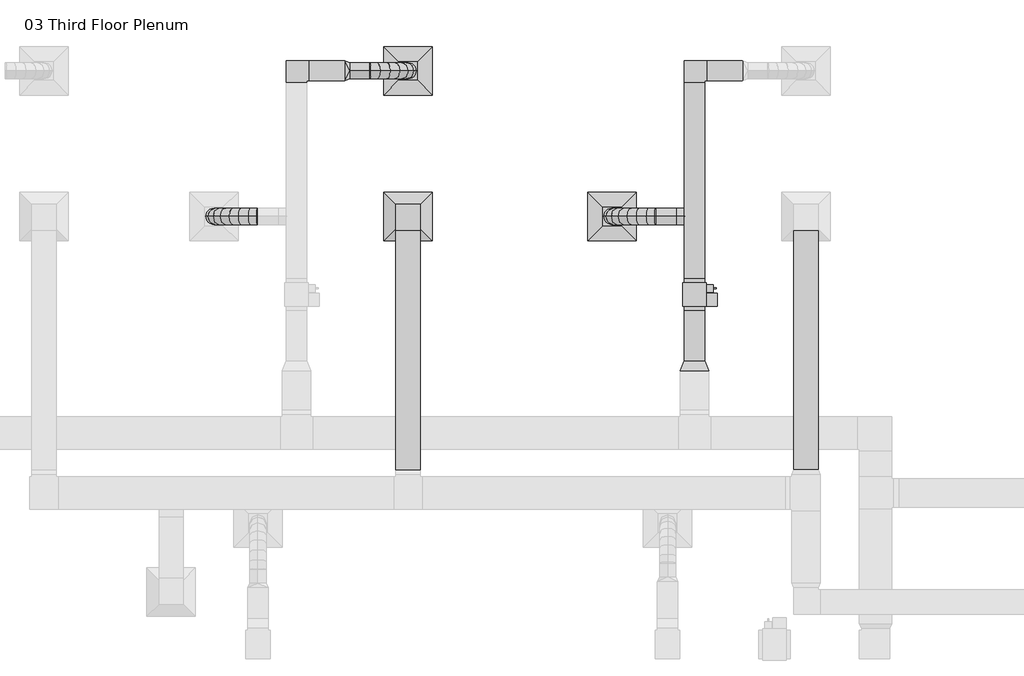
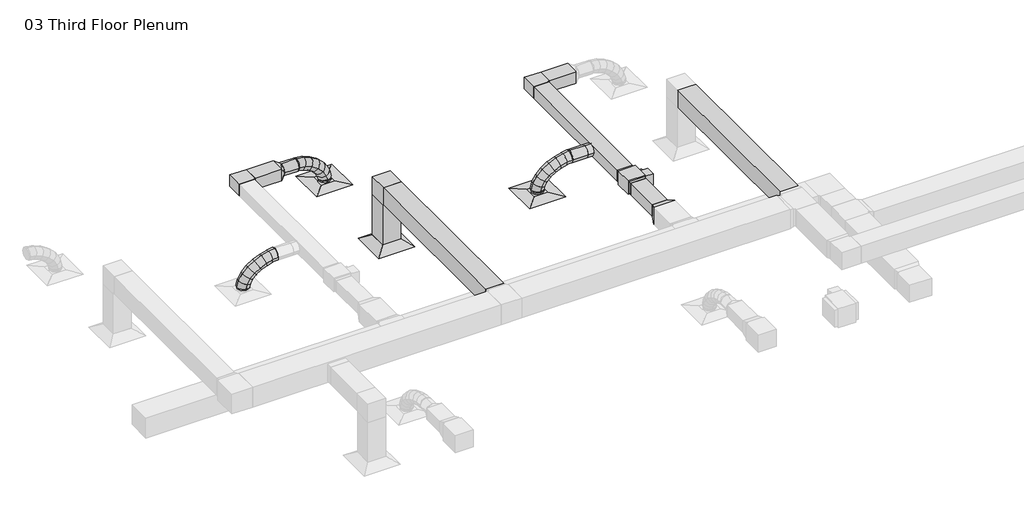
# One storey, part 8 of 9: 12 duct segments, 6 duct fittings, 3 air terminals, 1 proxy.
"""IFC4 building model written with IfcOpenShell, lengths in millimetres."""

from ifc_helpers import new_model, si_unit, point, frame, frame_2d, origin, place, context, project, spatial, polyline, circle_curve, ellipse_curve, trimmed, segment, composite_curve, outline, extrude, transform, mapped, element, save
from ifc_brep_helpers import plane_surface, cylinder_surface, advanced_brep
from components import return_diffuser_d30_returndiffuser_24x24_12x12_connection_ff543d60, supply_diffuser_rectangular_face_round_neck_d30_6390248a, bcn6785_vav_d30_vav1_8c327968, rectangular_elbow_mitered_standard_f09b78ec, rectangular_elbow_mitered_standard_4ff1c4e8, rectangular_transition_angle_45_degree_74625674, rectangular_to_round_transition_angle_45_degree_e9430680, round_takeoff_standard_1127d77f

model = new_model("IFC4")

# Units and contexts
model_context = context("Model", 3, world=origin())
ifc_project = project(units=[si_unit("LENGTHUNIT", "METRE", prefix="MILLI")], contexts=[model_context])

# Site, building, storey
site = spatial("IfcSite", under=ifc_project)
building = spatial("IfcBuilding", under=site)
storey = spatial("IfcBuildingStorey", under=building, Name="03 Third Floor Plenum", Elevation=7620.0)

# Air terminals
placement = place(None, origin())
return_diffuser_d30_returndiffuser_24x24_12x12_connection_shape = return_diffuser_d30_returndiffuser_24x24_12x12_connection_ff543d60(model_context)
element("IfcAirTerminal", 1, ObjectType="Return Diffuser : D30_ReturnDiffuser_24x24 12x12 Connection", at=placement, inside=storey, context=model_context, shape_type="MappedRepresentation", body=[
    mapped(return_diffuser_d30_returndiffuser_24x24_12x12_connection_shape, transform((5253.2457383, 10036.7671675, 7620.0), x_axis=(1.0, 0.0, 0.0), y_axis=(0.0, 1.0, 0.0), z_axis=(0.0, 0.0, 1.0))),
])
supply_diffuser_rectangular_face_round_neck_d30_shape = supply_diffuser_rectangular_face_round_neck_d30_6390248a(model_context)
element("IfcAirTerminal", 2, ObjectType="Supply Diffuser - Rectangular Face Round Neck : D30_SupplyDiffuser_24x24 8 Neck", at=placement, inside=storey, context=model_context, shape_type="MappedRepresentation", body=[
    mapped(supply_diffuser_rectangular_face_round_neck_d30_shape, transform((5253.2457383, 11865.5671675, 7620.0), x_axis=(1.0, 0.0, 0.0), y_axis=(0.0, 1.0, 0.0), z_axis=(0.0, 0.0, 1.0))),
])
element("IfcAirTerminal", 3, ObjectType="Supply Diffuser - Rectangular Face Round Neck : D30_SupplyDiffuser_24x24 8 Neck", at=placement, inside=storey, context=model_context, shape_type="MappedRepresentation", body=[
    mapped(supply_diffuser_rectangular_face_round_neck_d30_shape, transform((7813.8832383, 10036.7671675, 7620.0), x_axis=(1.0, 0.0, 0.0), y_axis=(0.0, 1.0, 0.0), z_axis=(0.0, 0.0, 1.0))),
])

# Proxy
bcn6785_vav_d30_vav1_shape = bcn6785_vav_d30_vav1_8c327968(model_context)
element("IfcBuildingElementProxy", 4, Name="BCN6785_VAV : D30_VAV1", ObjectType="BCN6785_VAV : D30_VAV1", at=placement, inside=storey, context=model_context, shape_type="MappedRepresentation", body=[
    mapped(bcn6785_vav_d30_vav1_shape, transform((8850.289134, 8909.6421675, 7956.55), x_axis=(0.0, 1.0, 0.0), y_axis=(-1.0, 0.0, 0.0), z_axis=(0.0, 0.0, 1.0))),
])

# Duct fittings
rectangular_elbow_mitered_standard_shape = rectangular_elbow_mitered_standard_f09b78ec(model_context)
element("IfcDuctFitting", 5, ObjectType="Rectangular Elbow - Mitered : Standard", at=placement, inside=storey, context=model_context, shape_type="MappedRepresentation", body=[
    mapped(rectangular_elbow_mitered_standard_shape, transform((3851.251634, 11865.5671675, 8077.2), x_axis=(-1.0, 0.0, 0.0), y_axis=(0.0, -1.0, 0.0), z_axis=(0.0, 0.0, 1.0))),
])
element("IfcDuctFitting", 6, ObjectType="Rectangular Elbow - Mitered : Standard", at=placement, inside=storey, context=model_context, shape_type="MappedRepresentation", body=[
    mapped(rectangular_elbow_mitered_standard_shape, transform((8850.289134, 11865.5671675, 8077.2), x_axis=(-1.0, 0.0, 0.0), y_axis=(0.0, -1.0, 0.0), z_axis=(0.0, 0.0, 1.0))),
])
rectangular_elbow_mitered_standard_2_shape = rectangular_elbow_mitered_standard_4ff1c4e8(model_context)
element("IfcDuctFitting", 7, ObjectType="Rectangular Elbow - Mitered : Standard", at=placement, inside=storey, context=model_context, shape_type="MappedRepresentation", body=[
    mapped(rectangular_elbow_mitered_standard_2_shape, transform((5253.2457383, 10036.7671675, 8610.6), x_axis=(0.0, 0.0, 1.0), y_axis=(0.0, -1.0, 0.0), z_axis=(1.0, 0.0, 0.0))),
])
rectangular_transition_angle_45_degree_shape = rectangular_transition_angle_45_degree_74625674(model_context)
element("IfcDuctFitting", 8, ObjectType="Rectangular Transition - Angle : 45 Degree", at=placement, inside=storey, context=model_context, shape_type="MappedRepresentation", body=[
    mapped(rectangular_transition_angle_45_degree_shape, transform((8850.289134, 8223.8421675, 8077.2), x_axis=(0.0, -1.0, 0.0), y_axis=(1.0, 0.0, 0.0), z_axis=(0.0, 0.0, 1.0))),
])
rectangular_to_round_transition_angle_45_degree_shape = rectangular_to_round_transition_angle_45_degree_e9430680(model_context)
element("IfcDuctFitting", 9, ObjectType="Rectangular to Round Transition - Angle : 45 Degree", at=placement, inside=storey, context=model_context, shape_type="MappedRepresentation", body=[
    mapped(rectangular_to_round_transition_angle_45_degree_shape, transform((4460.851634, 11865.5671675, 8077.2), x_axis=(1.0, 0.0, 0.0), y_axis=(0.0, 1.0, 0.0), z_axis=(0.0, 0.0, 1.0))),
])
round_takeoff_standard_shape = round_takeoff_standard_1127d77f(model_context)
element("IfcDuctFitting", 10, ObjectType="Round Takeoff : Standard", at=placement, inside=storey, context=model_context, shape_type="MappedRepresentation", body=[
    mapped(round_takeoff_standard_shape, transform((8723.289134, 10036.7671675, 8077.2), x_axis=(-1.0, 0.0, 0.0), y_axis=(0.0, 1.0, 0.0), z_axis=(0.0, 0.0, -1.0))),
])

# Duct segments
element("IfcDuctSegment", 11, ObjectType="Flex - Round", at=placement, inside=storey, context=model_context, shape_type="AdvancedBrep", body=[
    advanced_brep(
    [(4765.651634, 11967.1671675, 8077.2), (4765.651634, 11865.5671675, 7975.6), (4765.651634, 11763.9671675, 8077.2), (4765.651634, 11865.5671675, 8178.8), (4779.6598765, 11967.1671675, 8077.2), (4771.6002398, 11865.5671675, 7975.6), (4779.6598765, 11763.9671675, 8077.2), (4787.7195132, 11865.5671675, 8178.8), (5253.2457383, 11967.1671675, 7673.975), (5354.8457383, 11865.5671675, 7673.975), (5253.2457383, 11763.9671675, 7673.975), (5151.6457383, 11865.5671675, 7673.975), (4875.001546, 11967.1671675, 8061.9778475), (4848.5341556, 11865.5671675, 7963.3168105), (4875.001546, 11763.9671675, 8061.9778475), (4901.4689365, 11865.5671675, 8160.6388846), (4985.801663, 11967.1671675, 8019.5285565), (4940.0682817, 11865.5671675, 7928.2486277), (4985.801663, 11763.9671675, 8019.5285565), (5031.5350443, 11865.5671675, 8110.8084854), (5088.5390628, 11967.1671675, 7954.6778766), (5025.4257256, 11865.5671675, 7874.3686553), (5088.5390628, 11763.9671675, 7954.6778766), (5151.6524001, 11865.5671675, 8034.987098), (5173.7008234, 11967.1671675, 7872.2515575), (5093.7242587, 11865.5671675, 7808.2639076), (5173.7008234, 11763.9671675, 7872.2515575), (5253.677388, 11865.5671675, 7936.2392074), (5231.7740226, 11967.1671675, 7777.0753487), (5137.2379514, 11865.5671675, 7736.9492848), (5231.7740226, 11763.9671675, 7777.0753487), (5326.3100938, 11865.5671675, 7817.2014127), (5253.2457383, 11967.1671675, 7694.6897958), (5151.6457383, 11865.5671675, 7681.6675594), (5253.2457383, 11763.9671675, 7694.6897958), (5354.8457383, 11865.5671675, 7707.7120321)],
    [
        (0, 1, circle_curve(frame((4765.651634, 11865.5671675, 8077.2), z_axis=(-1.0, 0.0, 0.0), x_axis=(0.0, 1.0, 0.0)), 101.6)),
        (1, 2, circle_curve(frame((4765.651634, 11865.5671675, 8077.2), z_axis=(-1.0, 0.0, 0.0), x_axis=(0.0, 1.0, 0.0)), 101.6)),
        (2, 3, circle_curve(frame((4765.651634, 11865.5671675, 8077.2), z_axis=(-1.0, 0.0, 0.0), x_axis=(0.0, 1.0, 0.0)), 101.6)),
        (3, 0, circle_curve(frame((4765.651634, 11865.5671675, 8077.2), z_axis=(-1.0, 0.0, 0.0), x_axis=(0.0, 1.0, 0.0)), 101.6)),
        (0, 4),
        (4, 5, ellipse_curve(frame((4779.6598765, 11865.5671675, 8077.2), z_axis=(-0.9968683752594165, 0.0, 0.07907871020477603), x_axis=(-0.07907871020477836, 0.0, -0.9968683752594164)), 101.9191726, 101.6)),
        (5, 1),
        (5, 6, ellipse_curve(frame((4779.6598765, 11865.5671675, 8077.2), z_axis=(-0.9968683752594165, 0.0, 0.07907871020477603), x_axis=(-0.07907871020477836, 0.0, -0.9968683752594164)), 101.9191726, 101.6)),
        (6, 2),
        (6, 7, ellipse_curve(frame((4779.6598765, 11865.5671675, 8077.2), z_axis=(-0.9968683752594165, 0.0, 0.07907871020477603), x_axis=(-0.07907871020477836, 0.0, -0.9968683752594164)), 101.9191726, 101.6)),
        (7, 3),
        (7, 4, ellipse_curve(frame((4779.6598765, 11865.5671675, 8077.2), z_axis=(-0.9968683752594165, 0.0, 0.07907871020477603), x_axis=(-0.07907871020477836, 0.0, -0.9968683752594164)), 101.9191726, 101.6)),
        (8, 9, circle_curve(frame((5253.2457383, 11865.5671675, 7673.975), z_axis=(0.0, 0.0, -1.0), x_axis=(0.0, 1.0, 0.0)), 101.6)),
        (9, 10, circle_curve(frame((5253.2457383, 11865.5671675, 7673.975), z_axis=(0.0, 0.0, -1.0), x_axis=(0.0, 1.0, 0.0)), 101.6)),
        (10, 11, circle_curve(frame((5253.2457383, 11865.5671675, 7673.975), z_axis=(0.0, 0.0, -1.0), x_axis=(0.0, 1.0, 0.0)), 101.6)),
        (11, 8, circle_curve(frame((5253.2457383, 11865.5671675, 7673.975), z_axis=(0.0, 0.0, -1.0), x_axis=(0.0, 1.0, 0.0)), 101.6)),
        (4, 12),
        (12, 13, ellipse_curve(frame((4875.001546, 11865.5671675, 8061.9778475), z_axis=(-0.965849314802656, 0.0, 0.2591044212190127), x_axis=(-0.25910442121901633, 0.0, -0.9658493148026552)), 102.1495129, 101.6)),
        (13, 5),
        (13, 14, ellipse_curve(frame((4875.001546, 11865.5671675, 8061.9778475), z_axis=(-0.965849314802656, 0.0, 0.2591044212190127), x_axis=(-0.25910442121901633, 0.0, -0.9658493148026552)), 102.1495129, 101.6)),
        (14, 6),
        (14, 15, ellipse_curve(frame((4875.001546, 11865.5671675, 8061.9778475), z_axis=(-0.965849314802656, 0.0, 0.2591044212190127), x_axis=(-0.25910442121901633, 0.0, -0.9658493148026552)), 102.1495129, 101.6)),
        (15, 7),
        (15, 12, ellipse_curve(frame((4875.001546, 11865.5671675, 8061.9778475), z_axis=(-0.965849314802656, 0.0, 0.2591044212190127), x_axis=(-0.25910442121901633, 0.0, -0.9658493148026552)), 102.1495129, 101.6)),
        (12, 16),
        (16, 17, ellipse_curve(frame((4985.801663, 11865.5671675, 8019.5285565), z_axis=(-0.8940608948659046, 0.0, 0.4479454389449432), x_axis=(-0.44794543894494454, 0.0, -0.8940608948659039)), 102.0958744, 101.6)),
        (17, 13),
        (17, 18, ellipse_curve(frame((4985.801663, 11865.5671675, 8019.5285565), z_axis=(-0.8940608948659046, 0.0, 0.4479454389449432), x_axis=(-0.44794543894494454, 0.0, -0.8940608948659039)), 102.0958744, 101.6)),
        (18, 14),
        (18, 19, ellipse_curve(frame((4985.801663, 11865.5671675, 8019.5285565), z_axis=(-0.8940608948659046, 0.0, 0.4479454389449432), x_axis=(-0.44794543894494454, 0.0, -0.8940608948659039)), 102.0958744, 101.6)),
        (19, 15),
        (19, 16, ellipse_curve(frame((4985.801663, 11865.5671675, 8019.5285565), z_axis=(-0.8940608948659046, 0.0, 0.4479454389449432), x_axis=(-0.44794543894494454, 0.0, -0.8940608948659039)), 102.0958744, 101.6)),
        (16, 20),
        (20, 21, ellipse_curve(frame((5088.5390628, 11865.5671675, 7954.6778766), z_axis=(-0.7862553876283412, 0.0, 0.617901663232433), x_axis=(-0.6179016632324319, 0.0, -0.786255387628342)), 102.141394, 101.6)),
        (21, 17),
        (21, 22, ellipse_curve(frame((5088.5390628, 11865.5671675, 7954.6778766), z_axis=(-0.7862553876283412, 0.0, 0.617901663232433), x_axis=(-0.6179016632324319, 0.0, -0.786255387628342)), 102.141394, 101.6)),
        (22, 18),
        (22, 23, ellipse_curve(frame((5088.5390628, 11865.5671675, 7954.6778766), z_axis=(-0.7862553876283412, 0.0, 0.617901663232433), x_axis=(-0.6179016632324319, 0.0, -0.786255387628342)), 102.141394, 101.6)),
        (23, 19),
        (23, 20, ellipse_curve(frame((5088.5390628, 11865.5671675, 7954.6778766), z_axis=(-0.7862553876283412, 0.0, 0.617901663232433), x_axis=(-0.6179016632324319, 0.0, -0.786255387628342)), 102.141394, 101.6)),
        (20, 24),
        (24, 25, ellipse_curve(frame((5173.7008234, 11865.5671675, 7872.2515575), z_axis=(-0.6247331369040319, 0.0, 0.7808383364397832), x_axis=(-0.7808383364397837, 0.0, -0.624733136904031)), 102.4239729, 101.6)),
        (25, 21),
        (25, 26, ellipse_curve(frame((5173.7008234, 11865.5671675, 7872.2515575), z_axis=(-0.6247331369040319, 0.0, 0.7808383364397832), x_axis=(-0.7808383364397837, 0.0, -0.624733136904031)), 102.4239729, 101.6)),
        (26, 22),
        (26, 27, ellipse_curve(frame((5173.7008234, 11865.5671675, 7872.2515575), z_axis=(-0.6247331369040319, 0.0, 0.7808383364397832), x_axis=(-0.7808383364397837, 0.0, -0.624733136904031)), 102.4239729, 101.6)),
        (27, 23),
        (27, 24, ellipse_curve(frame((5173.7008234, 11865.5671675, 7872.2515575), z_axis=(-0.6247331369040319, 0.0, 0.7808383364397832), x_axis=(-0.7808383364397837, 0.0, -0.624733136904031)), 102.4239729, 101.6)),
        (24, 28),
        (28, 29, ellipse_curve(frame((5231.7740226, 11865.5671675, 7777.0753487), z_axis=(-0.3907136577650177, 0.0, 0.9205122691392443), x_axis=(-0.9205122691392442, 0.0, -0.39071365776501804)), 102.6994146, 101.6)),
        (29, 25),
        (29, 30, ellipse_curve(frame((5231.7740226, 11865.5671675, 7777.0753487), z_axis=(-0.3907136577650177, 0.0, 0.9205122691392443), x_axis=(-0.9205122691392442, 0.0, -0.39071365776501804)), 102.6994146, 101.6)),
        (30, 26),
        (30, 31, ellipse_curve(frame((5231.7740226, 11865.5671675, 7777.0753487), z_axis=(-0.3907136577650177, 0.0, 0.9205122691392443), x_axis=(-0.9205122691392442, 0.0, -0.39071365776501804)), 102.6994146, 101.6)),
        (31, 27),
        (31, 28, ellipse_curve(frame((5231.7740226, 11865.5671675, 7777.0753487), z_axis=(-0.3907136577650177, 0.0, 0.9205122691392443), x_axis=(-0.9205122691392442, 0.0, -0.39071365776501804)), 102.6994146, 101.6)),
        (28, 32),
        (32, 33, ellipse_curve(frame((5253.2457383, 11865.5671675, 7694.6897958), z_axis=(-0.12713161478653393, 0.0, 0.9918858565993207), x_axis=(-0.9918858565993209, 0.0, -0.12713161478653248)), 102.431141, 101.6)),
        (33, 29),
        (33, 34, ellipse_curve(frame((5253.2457383, 11865.5671675, 7694.6897958), z_axis=(-0.12713161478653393, 0.0, 0.9918858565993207), x_axis=(-0.9918858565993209, 0.0, -0.12713161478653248)), 102.431141, 101.6)),
        (34, 30),
        (34, 35, ellipse_curve(frame((5253.2457383, 11865.5671675, 7694.6897958), z_axis=(-0.12713161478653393, 0.0, 0.9918858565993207), x_axis=(-0.9918858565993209, 0.0, -0.12713161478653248)), 102.431141, 101.6)),
        (35, 31),
        (35, 32, ellipse_curve(frame((5253.2457383, 11865.5671675, 7694.6897958), z_axis=(-0.12713161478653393, 0.0, 0.9918858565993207), x_axis=(-0.9918858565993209, 0.0, -0.12713161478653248)), 102.431141, 101.6)),
        (32, 8),
        (11, 33),
        (10, 34),
        (9, 35),
    ],
    [
        plane_surface(frame((4765.651634, 11865.5671675, 7975.6), z_axis=(-1.0, 0.0, 0.0), x_axis=(0.0, 1.0, 0.0))),
        cylinder_surface(frame((4765.651634, 11865.5671675, 8077.2), z_axis=(-1.0, 0.0, 0.0), x_axis=(0.0, 1.0, 0.0)), 101.6),
        plane_surface(frame((5253.2457383, 11763.9671675, 7673.975), z_axis=(0.0, 0.0, -1.0), x_axis=(-1.0, 0.0, 0.0))),
        cylinder_surface(frame((4779.6598765, 11865.5671675, 8077.2), z_axis=(-0.9874931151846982, 0.0, 0.15766213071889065), x_axis=(0.0, 1.0, 0.0)), 101.6),
        cylinder_surface(frame((4875.001546, 11865.5671675, 8061.9778475), z_axis=(-0.9338139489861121, 0.0, 0.3577590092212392), x_axis=(0.0, 1.0, 0.0)), 101.6),
        cylinder_surface(frame((4985.801663, 11865.5671675, 8019.5285565), z_axis=(-0.8456230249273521, 0.0, 0.5337805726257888), x_axis=(0.0, 1.0, 0.0)), 101.6),
        cylinder_surface(frame((5088.5390628, 11865.5671675, 7954.6778766), z_axis=(-0.7185527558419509, 0.0, 0.695472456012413), x_axis=(0.0, 1.0, 0.0)), 101.6),
        cylinder_surface(frame((5173.7008234, 11865.5671675, 7872.2515575), z_axis=(-0.5208619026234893, 0.0, 0.85364095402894), x_axis=(0.0, 1.0, 0.0)), 101.6),
        cylinder_surface(frame((5231.7740226, 11865.5671675, 7777.0753487), z_axis=(-0.25220010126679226, 0.0, 0.9676751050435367), x_axis=(0.0, 1.0, 0.0)), 101.6),
        cylinder_surface(frame((5253.2457383, 11865.5671675, 7694.6897958), z_axis=(0.0, 0.0, 1.0), x_axis=(0.0, 1.0, 0.0)), 101.6),
    ],
    [
        (0, [[1, 2, 3, 4]]),
        (1, [[-1, 5, 6, 7]]),
        (1, [[-2, -7, 8, 9]]),
        (1, [[-3, -9, 10, 11]]),
        (1, [[-4, -11, 12, -5]]),
        (2, [[13, 14, 15, 16]]),
        (3, [[-6, 17, 18, 19]]),
        (3, [[-8, -19, 20, 21]]),
        (3, [[-10, -21, 22, 23]]),
        (3, [[-12, -23, 24, -17]]),
        (4, [[-18, 25, 26, 27]]),
        (4, [[-20, -27, 28, 29]]),
        (4, [[-22, -29, 30, 31]]),
        (4, [[-24, -31, 32, -25]]),
        (5, [[-26, 33, 34, 35]]),
        (5, [[-28, -35, 36, 37]]),
        (5, [[-30, -37, 38, 39]]),
        (5, [[-32, -39, 40, -33]]),
        (6, [[-34, 41, 42, 43]]),
        (6, [[-36, -43, 44, 45]]),
        (6, [[-38, -45, 46, 47]]),
        (6, [[-40, -47, 48, -41]]),
        (7, [[-42, 49, 50, 51]]),
        (7, [[-44, -51, 52, 53]]),
        (7, [[-46, -53, 54, 55]]),
        (7, [[-48, -55, 56, -49]]),
        (8, [[-50, 57, 58, 59]]),
        (8, [[-52, -59, 60, 61]]),
        (8, [[-54, -61, 62, 63]]),
        (8, [[-56, -63, 64, -57]]),
        (9, [[-58, 65, -16, 66]]),
        (9, [[-60, -66, -15, 67]]),
        (9, [[-62, -67, -14, 68]]),
        (9, [[-64, -68, -13, -65]]),
    ],
),
])
element("IfcDuctSegment", 12, ObjectType="Flex - Round", at=placement, inside=storey, context=model_context, shape_type="AdvancedBrep", body=[
    advanced_brep(
    [(3368.651634, 9935.1671675, 8077.2), (3368.651634, 10036.7671675, 7975.6), (3368.651634, 10138.3671675, 8077.2), (3368.651634, 10036.7671675, 8178.8), (3358.449386, 9935.1671675, 8077.2), (3364.1249071, 10036.7671675, 7975.6), (3358.449386, 10138.3671675, 8077.2), (3352.7738649, 10036.7671675, 8178.8), (2814.8457383, 9935.1671675, 7673.975), (2713.2457383, 10036.7671675, 7673.975), (2814.8457383, 10138.3671675, 7673.975), (2916.4457383, 10036.7671675, 7673.975), (3266.0742113, 9935.1671675, 8066.847276), (3285.406616, 10036.7671675, 7966.7778382), (3266.0742113, 10138.3671675, 8066.847276), (3246.7418065, 10036.7671675, 8166.9167138), (3158.9979223, 9935.1671675, 8037.2048655), (3193.5702869, 10036.7671675, 7941.3543743), (3158.9979223, 10138.3671675, 8037.2048655), (3124.4255578, 10036.7671675, 8133.0553568), (3054.8145459, 9935.1671675, 7990.396411), (3103.8921848, 10036.7671675, 7901.0629813), (3054.8145459, 10138.3671675, 7990.396411), (3005.736907, 10036.7671675, 8079.7298408), (2960.9158606, 9935.1671675, 7928.5455549), (3025.0310858, 10036.7671675, 7849.1173499), (2960.9158606, 10138.3671675, 7928.5455549), (2896.8006354, 10036.7671675, 8007.9737598), (2884.6936451, 9935.1671675, 7853.7759394), (2965.1830756, 10036.7671675, 7790.4098894), (2884.6936451, 10138.3671675, 7853.7759394), (2804.2042146, 10036.7671675, 7917.1419893), (2833.5396781, 9935.1671675, 7768.211207), (2928.4333963, 10036.7671675, 7728.9390659), (2833.5396781, 10138.3671675, 7768.211207), (2738.64596, 10036.7671675, 7807.483348), (2814.8457383, 9935.1671675, 7693.7444887), (2916.4457383, 10036.7671675, 7681.1866092), (2814.8457383, 10138.3671675, 7693.7444887), (2713.2457383, 10036.7671675, 7706.3023681)],
    [
        (0, 1, circle_curve(frame((3368.651634, 10036.7671675, 8077.2), z_axis=(1.0, 0.0, 0.0), x_axis=(0.0, -1.0, 0.0)), 101.6)),
        (1, 2, circle_curve(frame((3368.651634, 10036.7671675, 8077.2), z_axis=(1.0, 0.0, 0.0), x_axis=(0.0, -1.0, 0.0)), 101.6)),
        (2, 3, circle_curve(frame((3368.651634, 10036.7671675, 8077.2), z_axis=(1.0, 0.0, 0.0), x_axis=(0.0, -1.0, 0.0)), 101.6)),
        (3, 0, circle_curve(frame((3368.651634, 10036.7671675, 8077.2), z_axis=(1.0, 0.0, 0.0), x_axis=(0.0, -1.0, 0.0)), 101.6)),
        (0, 4),
        (4, 5, ellipse_curve(frame((3358.449386, 10036.7671675, 8077.2), z_axis=(0.9984433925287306, 0.0, 0.05577447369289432), x_axis=(0.05577447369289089, 0.0, -0.9984433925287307)), 101.7583979, 101.6)),
        (5, 1),
        (5, 6, ellipse_curve(frame((3358.449386, 10036.7671675, 8077.2), z_axis=(0.9984433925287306, 0.0, 0.05577447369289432), x_axis=(0.05577447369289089, 0.0, -0.9984433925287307)), 101.7583979, 101.6)),
        (6, 2),
        (6, 7, ellipse_curve(frame((3358.449386, 10036.7671675, 8077.2), z_axis=(0.9984433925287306, 0.0, 0.05577447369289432), x_axis=(0.05577447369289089, 0.0, -0.9984433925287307)), 101.7583979, 101.6)),
        (7, 3),
        (7, 4, ellipse_curve(frame((3358.449386, 10036.7671675, 8077.2), z_axis=(0.9984433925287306, 0.0, 0.05577447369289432), x_axis=(0.05577447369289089, 0.0, -0.9984433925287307)), 101.7583979, 101.6)),
        (8, 9, circle_curve(frame((2814.8457383, 10036.7671675, 7673.975), z_axis=(0.0, 0.0, -1.0), x_axis=(0.0, -1.0, 0.0)), 101.6)),
        (9, 10, circle_curve(frame((2814.8457383, 10036.7671675, 7673.975), z_axis=(0.0, 0.0, -1.0), x_axis=(0.0, -1.0, 0.0)), 101.6)),
        (10, 11, circle_curve(frame((2814.8457383, 10036.7671675, 7673.975), z_axis=(0.0, 0.0, -1.0), x_axis=(0.0, -1.0, 0.0)), 101.6)),
        (11, 8, circle_curve(frame((2814.8457383, 10036.7671675, 7673.975), z_axis=(0.0, 0.0, -1.0), x_axis=(0.0, -1.0, 0.0)), 101.6)),
        (4, 12),
        (12, 13, ellipse_curve(frame((3266.0742113, 10036.7671675, 8066.847276), z_axis=(0.981845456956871, 0.0, 0.1896826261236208), x_axis=(0.18968262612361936, 0.0, -0.9818454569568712)), 101.9197442, 101.6)),
        (13, 5),
        (13, 14, ellipse_curve(frame((3266.0742113, 10036.7671675, 8066.847276), z_axis=(0.981845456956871, 0.0, 0.1896826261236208), x_axis=(0.18968262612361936, 0.0, -0.9818454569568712)), 101.9197442, 101.6)),
        (14, 6),
        (14, 15, ellipse_curve(frame((3266.0742113, 10036.7671675, 8066.847276), z_axis=(0.981845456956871, 0.0, 0.1896826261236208), x_axis=(0.18968262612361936, 0.0, -0.9818454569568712)), 101.9197442, 101.6)),
        (15, 7),
        (15, 12, ellipse_curve(frame((3266.0742113, 10036.7671675, 8066.847276), z_axis=(0.981845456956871, 0.0, 0.1896826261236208), x_axis=(0.18968262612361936, 0.0, -0.9818454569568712)), 101.9197442, 101.6)),
        (12, 16),
        (16, 17, ellipse_curve(frame((3158.9979223, 10036.7671675, 8037.2048655), z_axis=(0.9406802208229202, 0.0, 0.3392944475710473), x_axis=(0.3392944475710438, 0.0, -0.9406802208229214)), 101.8948726, 101.6)),
        (17, 13),
        (17, 18, ellipse_curve(frame((3158.9979223, 10036.7671675, 8037.2048655), z_axis=(0.9406802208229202, 0.0, 0.3392944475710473), x_axis=(0.3392944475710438, 0.0, -0.9406802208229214)), 101.8948726, 101.6)),
        (18, 14),
        (18, 19, ellipse_curve(frame((3158.9979223, 10036.7671675, 8037.2048655), z_axis=(0.9406802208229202, 0.0, 0.3392944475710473), x_axis=(0.3392944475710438, 0.0, -0.9406802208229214)), 101.8948726, 101.6)),
        (19, 15),
        (19, 16, ellipse_curve(frame((3158.9979223, 10036.7671675, 8037.2048655), z_axis=(0.9406802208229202, 0.0, 0.3392944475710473), x_axis=(0.3392944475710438, 0.0, -0.9406802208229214)), 101.8948726, 101.6)),
        (16, 20),
        (20, 21, ellipse_curve(frame((3054.8145459, 10036.7671675, 7990.396411), z_axis=(0.8764467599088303, 0.0, 0.4814987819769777), x_axis=(0.48149878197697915, 0.0, -0.8764467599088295)), 101.9268184, 101.6)),
        (21, 17),
        (21, 22, ellipse_curve(frame((3054.8145459, 10036.7671675, 7990.396411), z_axis=(0.8764467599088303, 0.0, 0.4814987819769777), x_axis=(0.48149878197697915, 0.0, -0.8764467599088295)), 101.9268184, 101.6)),
        (22, 18),
        (22, 23, ellipse_curve(frame((3054.8145459, 10036.7671675, 7990.396411), z_axis=(0.8764467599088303, 0.0, 0.4814987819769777), x_axis=(0.48149878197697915, 0.0, -0.8764467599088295)), 101.9268184, 101.6)),
        (23, 19),
        (23, 20, ellipse_curve(frame((3054.8145459, 10036.7671675, 7990.396411), z_axis=(0.8764467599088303, 0.0, 0.4814987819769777), x_axis=(0.48149878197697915, 0.0, -0.8764467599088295)), 101.9268184, 101.6)),
        (20, 24),
        (24, 25, ellipse_curve(frame((2960.9158606, 10036.7671675, 7928.5455549), z_axis=(0.7781246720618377, 0.0, 0.628109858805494), x_axis=(0.6281098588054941, 0.0, -0.7781246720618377)), 102.0764509, 101.6)),
        (25, 21),
        (25, 26, ellipse_curve(frame((2960.9158606, 10036.7671675, 7928.5455549), z_axis=(0.7781246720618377, 0.0, 0.628109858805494), x_axis=(0.6281098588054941, 0.0, -0.7781246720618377)), 102.0764509, 101.6)),
        (26, 22),
        (26, 27, ellipse_curve(frame((2960.9158606, 10036.7671675, 7928.5455549), z_axis=(0.7781246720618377, 0.0, 0.628109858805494), x_axis=(0.6281098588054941, 0.0, -0.7781246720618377)), 102.0764509, 101.6)),
        (27, 23),
        (27, 24, ellipse_curve(frame((2960.9158606, 10036.7671675, 7928.5455549), z_axis=(0.7781246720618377, 0.0, 0.628109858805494), x_axis=(0.6281098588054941, 0.0, -0.7781246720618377)), 102.0764509, 101.6)),
        (24, 28),
        (28, 29, ellipse_curve(frame((2884.6936451, 10036.7671675, 7853.7759394), z_axis=(0.6185718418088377, 0.0, 0.7857282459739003), x_axis=(0.7857282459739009, 0.0, -0.6185718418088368)), 102.4392733, 101.6)),
        (29, 25),
        (29, 30, ellipse_curve(frame((2884.6936451, 10036.7671675, 7853.7759394), z_axis=(0.6185718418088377, 0.0, 0.7857282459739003), x_axis=(0.7857282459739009, 0.0, -0.6185718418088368)), 102.4392733, 101.6)),
        (30, 26),
        (30, 31, ellipse_curve(frame((2884.6936451, 10036.7671675, 7853.7759394), z_axis=(0.6185718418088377, 0.0, 0.7857282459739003), x_axis=(0.7857282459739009, 0.0, -0.6185718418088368)), 102.4392733, 101.6)),
        (31, 27),
        (31, 28, ellipse_curve(frame((2884.6936451, 10036.7671675, 7853.7759394), z_axis=(0.6185718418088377, 0.0, 0.7857282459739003), x_axis=(0.7857282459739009, 0.0, -0.6185718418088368)), 102.4392733, 101.6)),
        (28, 32),
        (32, 33, ellipse_curve(frame((2833.5396781, 10036.7671675, 7768.211207), z_axis=(0.3823998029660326, 0.0, 0.9239969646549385), x_axis=(0.9239969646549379, 0.0, -0.38239980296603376)), 102.6991666, 101.6)),
        (33, 29),
        (33, 34, ellipse_curve(frame((2833.5396781, 10036.7671675, 7768.211207), z_axis=(0.3823998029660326, 0.0, 0.9239969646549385), x_axis=(0.9239969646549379, 0.0, -0.38239980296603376)), 102.6991666, 101.6)),
        (34, 30),
        (34, 35, ellipse_curve(frame((2833.5396781, 10036.7671675, 7768.211207), z_axis=(0.3823998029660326, 0.0, 0.9239969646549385), x_axis=(0.9239969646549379, 0.0, -0.38239980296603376)), 102.6991666, 101.6)),
        (35, 31),
        (35, 32, ellipse_curve(frame((2833.5396781, 10036.7671675, 7768.211207), z_axis=(0.3823998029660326, 0.0, 0.9239969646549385), x_axis=(0.9239969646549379, 0.0, -0.38239980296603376)), 102.6991666, 101.6)),
        (32, 36),
        (36, 37, ellipse_curve(frame((2814.8457383, 10036.7671675, 7693.7444887), z_axis=(0.12266771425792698, 0.0, 0.992447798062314), x_axis=(0.992447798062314, 0.0, -0.12266771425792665)), 102.3731426, 101.6)),
        (37, 33),
        (37, 38, ellipse_curve(frame((2814.8457383, 10036.7671675, 7693.7444887), z_axis=(0.12266771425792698, 0.0, 0.992447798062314), x_axis=(0.992447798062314, 0.0, -0.12266771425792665)), 102.3731426, 101.6)),
        (38, 34),
        (38, 39, ellipse_curve(frame((2814.8457383, 10036.7671675, 7693.7444887), z_axis=(0.12266771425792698, 0.0, 0.992447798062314), x_axis=(0.992447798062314, 0.0, -0.12266771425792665)), 102.3731426, 101.6)),
        (39, 35),
        (39, 36, ellipse_curve(frame((2814.8457383, 10036.7671675, 7693.7444887), z_axis=(0.12266771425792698, 0.0, 0.992447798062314), x_axis=(0.992447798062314, 0.0, -0.12266771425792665)), 102.3731426, 101.6)),
        (36, 8),
        (11, 37),
        (10, 38),
        (9, 39),
    ],
    [
        plane_surface(frame((3368.651634, 10036.7671675, 7975.6), z_axis=(1.0, 0.0, 0.0), x_axis=(0.0, -1.0, 0.0))),
        cylinder_surface(frame((3368.651634, 10036.7671675, 8077.2), z_axis=(1.0, 0.0, 0.0), x_axis=(0.0, -1.0, 0.0)), 101.6),
        plane_surface(frame((2814.8457383, 9935.1671675, 7673.975), z_axis=(0.0, 0.0, -1.0), x_axis=(-1.0, 0.0, 0.0))),
        cylinder_surface(frame((3358.449386, 10036.7671675, 8077.2), z_axis=(0.9937784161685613, 0.0, 0.11137530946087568), x_axis=(0.0, -1.0, 0.0)), 101.6),
        cylinder_surface(frame((3266.0742113, 10036.7671675, 8066.847276), z_axis=(0.9637519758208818, 0.0, 0.26679979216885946), x_axis=(0.0, -1.0, 0.0)), 101.6),
        cylinder_surface(frame((3158.9979223, 10036.7671675, 8037.2048655), z_axis=(0.9121640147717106, 0.0, 0.409825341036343), x_axis=(0.0, -1.0, 0.0)), 101.6),
        cylinder_surface(frame((3054.8145459, 10036.7671675, 7990.396411), z_axis=(0.8351090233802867, 0.0, 0.5500844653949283), x_axis=(0.0, -1.0, 0.0)), 101.6),
        cylinder_surface(frame((2960.9158606, 10036.7671675, 7928.5455549), z_axis=(0.71387638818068, 0.0, 0.700271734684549), x_axis=(0.0, -1.0, 0.0)), 101.6),
        cylinder_surface(frame((2884.6936451, 10036.7671675, 7853.7759394), z_axis=(0.5131315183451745, 0.0, 0.858309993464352), x_axis=(0.0, -1.0, 0.0)), 101.6),
        cylinder_surface(frame((2833.5396781, 10036.7671675, 7768.211207), z_axis=(0.2434826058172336, 0.0, 0.9699052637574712), x_axis=(0.0, -1.0, 0.0)), 101.6),
        cylinder_surface(frame((2814.8457383, 10036.7671675, 7693.7444887), z_axis=(0.0, 0.0, 1.0), x_axis=(0.0, -1.0, 0.0)), 101.6),
    ],
    [
        (0, [[1, 2, 3, 4]]),
        (1, [[-1, 5, 6, 7]]),
        (1, [[-2, -7, 8, 9]]),
        (1, [[-3, -9, 10, 11]]),
        (1, [[-4, -11, 12, -5]]),
        (2, [[13, 14, 15, 16]]),
        (3, [[-6, 17, 18, 19]]),
        (3, [[-8, -19, 20, 21]]),
        (3, [[-10, -21, 22, 23]]),
        (3, [[-12, -23, 24, -17]]),
        (4, [[-18, 25, 26, 27]]),
        (4, [[-20, -27, 28, 29]]),
        (4, [[-22, -29, 30, 31]]),
        (4, [[-24, -31, 32, -25]]),
        (5, [[-26, 33, 34, 35]]),
        (5, [[-28, -35, 36, 37]]),
        (5, [[-30, -37, 38, 39]]),
        (5, [[-32, -39, 40, -33]]),
        (6, [[-34, 41, 42, 43]]),
        (6, [[-36, -43, 44, 45]]),
        (6, [[-38, -45, 46, 47]]),
        (6, [[-40, -47, 48, -41]]),
        (7, [[-42, 49, 50, 51]]),
        (7, [[-44, -51, 52, 53]]),
        (7, [[-46, -53, 54, 55]]),
        (7, [[-48, -55, 56, -49]]),
        (8, [[-50, 57, 58, 59]]),
        (8, [[-52, -59, 60, 61]]),
        (8, [[-54, -61, 62, 63]]),
        (8, [[-56, -63, 64, -57]]),
        (9, [[-58, 65, 66, 67]]),
        (9, [[-60, -67, 68, 69]]),
        (9, [[-62, -69, 70, 71]]),
        (9, [[-64, -71, 72, -65]]),
        (10, [[-66, 73, -16, 74]]),
        (10, [[-68, -74, -15, 75]]),
        (10, [[-70, -75, -14, 76]]),
        (10, [[-72, -76, -13, -73]]),
    ],
),
])
element("IfcDuctSegment", 13, ObjectType="Flex - Round", at=placement, inside=storey, context=model_context, shape_type="AdvancedBrep", body=[
    advanced_brep(
    [(8367.689134, 9935.1671675, 8077.2), (8367.689134, 10036.7671675, 7975.6), (8367.689134, 10138.3671675, 8077.2), (8367.689134, 10036.7671675, 8178.8), (8357.486886, 9935.1671675, 8077.2), (8363.1624071, 10036.7671675, 7975.6), (8357.486886, 10138.3671675, 8077.2), (8351.8113649, 10036.7671675, 8178.8), (7813.8832383, 9935.1671675, 7673.975), (7712.2832383, 10036.7671675, 7673.975), (7813.8832383, 10138.3671675, 7673.975), (7915.4832383, 10036.7671675, 7673.975), (8265.1117113, 9935.1671675, 8066.847276), (8284.444116, 10036.7671675, 7966.7778382), (8265.1117113, 10138.3671675, 8066.847276), (8245.7793065, 10036.7671675, 8166.9167138), (8158.0354223, 9935.1671675, 8037.2048655), (8192.6077869, 10036.7671675, 7941.3543743), (8158.0354223, 10138.3671675, 8037.2048655), (8123.4630578, 10036.7671675, 8133.0553568), (8053.8520459, 9935.1671675, 7990.396411), (8102.9296848, 10036.7671675, 7901.0629813), (8053.8520459, 10138.3671675, 7990.396411), (8004.774407, 10036.7671675, 8079.7298408), (7959.9533606, 9935.1671675, 7928.5455549), (8024.0685858, 10036.7671675, 7849.1173499), (7959.9533606, 10138.3671675, 7928.5455549), (7895.8381354, 10036.7671675, 8007.9737598), (7883.7311451, 9935.1671675, 7853.7759394), (7964.2205756, 10036.7671675, 7790.4098894), (7883.7311451, 10138.3671675, 7853.7759394), (7803.2417146, 10036.7671675, 7917.1419893), (7832.5771781, 9935.1671675, 7768.211207), (7927.4708963, 10036.7671675, 7728.9390659), (7832.5771781, 10138.3671675, 7768.211207), (7737.68346, 10036.7671675, 7807.483348), (7813.8832383, 9935.1671675, 7693.7444887), (7915.4832383, 10036.7671675, 7681.1866092), (7813.8832383, 10138.3671675, 7693.7444887), (7712.2832383, 10036.7671675, 7706.3023681)],
    [
        (0, 1, circle_curve(frame((8367.689134, 10036.7671675, 8077.2), z_axis=(1.0, 0.0, 0.0), x_axis=(0.0, -1.0, 0.0)), 101.6)),
        (1, 2, circle_curve(frame((8367.689134, 10036.7671675, 8077.2), z_axis=(1.0, 0.0, 0.0), x_axis=(0.0, -1.0, 0.0)), 101.6)),
        (2, 3, circle_curve(frame((8367.689134, 10036.7671675, 8077.2), z_axis=(1.0, 0.0, 0.0), x_axis=(0.0, -1.0, 0.0)), 101.6)),
        (3, 0, circle_curve(frame((8367.689134, 10036.7671675, 8077.2), z_axis=(1.0, 0.0, 0.0), x_axis=(0.0, -1.0, 0.0)), 101.6)),
        (0, 4),
        (4, 5, ellipse_curve(frame((8357.486886, 10036.7671675, 8077.2), z_axis=(0.9984433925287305, 0.0, 0.05577447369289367), x_axis=(0.05577447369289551, 0.0, -0.9984433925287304)), 101.7583979, 101.6)),
        (5, 1),
        (5, 6, ellipse_curve(frame((8357.486886, 10036.7671675, 8077.2), z_axis=(0.9984433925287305, 0.0, 0.05577447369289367), x_axis=(0.05577447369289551, 0.0, -0.9984433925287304)), 101.7583979, 101.6)),
        (6, 2),
        (6, 7, ellipse_curve(frame((8357.486886, 10036.7671675, 8077.2), z_axis=(0.9984433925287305, 0.0, 0.05577447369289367), x_axis=(0.05577447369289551, 0.0, -0.9984433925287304)), 101.7583979, 101.6)),
        (7, 3),
        (7, 4, ellipse_curve(frame((8357.486886, 10036.7671675, 8077.2), z_axis=(0.9984433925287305, 0.0, 0.05577447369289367), x_axis=(0.05577447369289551, 0.0, -0.9984433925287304)), 101.7583979, 101.6)),
        (8, 9, circle_curve(frame((7813.8832383, 10036.7671675, 7673.975), z_axis=(0.0, 0.0, -1.0), x_axis=(0.0, -1.0, 0.0)), 101.6)),
        (9, 10, circle_curve(frame((7813.8832383, 10036.7671675, 7673.975), z_axis=(0.0, 0.0, -1.0), x_axis=(0.0, -1.0, 0.0)), 101.6)),
        (10, 11, circle_curve(frame((7813.8832383, 10036.7671675, 7673.975), z_axis=(0.0, 0.0, -1.0), x_axis=(0.0, -1.0, 0.0)), 101.6)),
        (11, 8, circle_curve(frame((7813.8832383, 10036.7671675, 7673.975), z_axis=(0.0, 0.0, -1.0), x_axis=(0.0, -1.0, 0.0)), 101.6)),
        (4, 12),
        (12, 13, ellipse_curve(frame((8265.1117113, 10036.7671675, 8066.847276), z_axis=(0.9818454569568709, 0.0, 0.18968262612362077), x_axis=(0.18968262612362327, 0.0, -0.9818454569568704)), 101.9197442, 101.6)),
        (13, 5),
        (13, 14, ellipse_curve(frame((8265.1117113, 10036.7671675, 8066.847276), z_axis=(0.9818454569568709, 0.0, 0.18968262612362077), x_axis=(0.18968262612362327, 0.0, -0.9818454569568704)), 101.9197442, 101.6)),
        (14, 6),
        (14, 15, ellipse_curve(frame((8265.1117113, 10036.7671675, 8066.847276), z_axis=(0.9818454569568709, 0.0, 0.18968262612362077), x_axis=(0.18968262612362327, 0.0, -0.9818454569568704)), 101.9197442, 101.6)),
        (15, 7),
        (15, 12, ellipse_curve(frame((8265.1117113, 10036.7671675, 8066.847276), z_axis=(0.9818454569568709, 0.0, 0.18968262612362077), x_axis=(0.18968262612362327, 0.0, -0.9818454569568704)), 101.9197442, 101.6)),
        (12, 16),
        (16, 17, ellipse_curve(frame((8158.0354223, 10036.7671675, 8037.2048655), z_axis=(0.9406802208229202, 0.0, 0.33929444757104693), x_axis=(0.33929444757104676, 0.0, -0.9406802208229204)), 101.8948726, 101.6)),
        (17, 13),
        (17, 18, ellipse_curve(frame((8158.0354223, 10036.7671675, 8037.2048655), z_axis=(0.9406802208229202, 0.0, 0.33929444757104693), x_axis=(0.33929444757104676, 0.0, -0.9406802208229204)), 101.8948726, 101.6)),
        (18, 14),
        (18, 19, ellipse_curve(frame((8158.0354223, 10036.7671675, 8037.2048655), z_axis=(0.9406802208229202, 0.0, 0.33929444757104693), x_axis=(0.33929444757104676, 0.0, -0.9406802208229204)), 101.8948726, 101.6)),
        (19, 15),
        (19, 16, ellipse_curve(frame((8158.0354223, 10036.7671675, 8037.2048655), z_axis=(0.9406802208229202, 0.0, 0.33929444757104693), x_axis=(0.33929444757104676, 0.0, -0.9406802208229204)), 101.8948726, 101.6)),
        (16, 20),
        (20, 21, ellipse_curve(frame((8053.8520459, 10036.7671675, 7990.396411), z_axis=(0.8764467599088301, 0.0, 0.48149878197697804), x_axis=(0.48149878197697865, 0.0, -0.8764467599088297)), 101.9268184, 101.6)),
        (21, 17),
        (21, 22, ellipse_curve(frame((8053.8520459, 10036.7671675, 7990.396411), z_axis=(0.8764467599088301, 0.0, 0.48149878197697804), x_axis=(0.48149878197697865, 0.0, -0.8764467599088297)), 101.9268184, 101.6)),
        (22, 18),
        (22, 23, ellipse_curve(frame((8053.8520459, 10036.7671675, 7990.396411), z_axis=(0.8764467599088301, 0.0, 0.48149878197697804), x_axis=(0.48149878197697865, 0.0, -0.8764467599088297)), 101.9268184, 101.6)),
        (23, 19),
        (23, 20, ellipse_curve(frame((8053.8520459, 10036.7671675, 7990.396411), z_axis=(0.8764467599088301, 0.0, 0.48149878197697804), x_axis=(0.48149878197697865, 0.0, -0.8764467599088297)), 101.9268184, 101.6)),
        (20, 24),
        (24, 25, ellipse_curve(frame((7959.9533606, 10036.7671675, 7928.5455549), z_axis=(0.7781246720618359, 0.0, 0.6281098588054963), x_axis=(0.6281098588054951, 0.0, -0.7781246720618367)), 102.0764509, 101.6)),
        (25, 21),
        (25, 26, ellipse_curve(frame((7959.9533606, 10036.7671675, 7928.5455549), z_axis=(0.7781246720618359, 0.0, 0.6281098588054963), x_axis=(0.6281098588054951, 0.0, -0.7781246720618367)), 102.0764509, 101.6)),
        (26, 22),
        (26, 27, ellipse_curve(frame((7959.9533606, 10036.7671675, 7928.5455549), z_axis=(0.7781246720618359, 0.0, 0.6281098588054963), x_axis=(0.6281098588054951, 0.0, -0.7781246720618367)), 102.0764509, 101.6)),
        (27, 23),
        (27, 24, ellipse_curve(frame((7959.9533606, 10036.7671675, 7928.5455549), z_axis=(0.7781246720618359, 0.0, 0.6281098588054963), x_axis=(0.6281098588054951, 0.0, -0.7781246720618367)), 102.0764509, 101.6)),
        (24, 28),
        (28, 29, ellipse_curve(frame((7883.7311451, 10036.7671675, 7853.7759394), z_axis=(0.6185718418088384, 0.0, 0.7857282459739), x_axis=(0.7857282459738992, 0.0, -0.6185718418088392)), 102.4392733, 101.6)),
        (29, 25),
        (29, 30, ellipse_curve(frame((7883.7311451, 10036.7671675, 7853.7759394), z_axis=(0.6185718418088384, 0.0, 0.7857282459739), x_axis=(0.7857282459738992, 0.0, -0.6185718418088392)), 102.4392733, 101.6)),
        (30, 26),
        (30, 31, ellipse_curve(frame((7883.7311451, 10036.7671675, 7853.7759394), z_axis=(0.6185718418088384, 0.0, 0.7857282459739), x_axis=(0.7857282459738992, 0.0, -0.6185718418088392)), 102.4392733, 101.6)),
        (31, 27),
        (31, 28, ellipse_curve(frame((7883.7311451, 10036.7671675, 7853.7759394), z_axis=(0.6185718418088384, 0.0, 0.7857282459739), x_axis=(0.7857282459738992, 0.0, -0.6185718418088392)), 102.4392733, 101.6)),
        (28, 32),
        (32, 33, ellipse_curve(frame((7832.5771781, 10036.7671675, 7768.211207), z_axis=(0.3823998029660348, 0.0, 0.9239969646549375), x_axis=(0.9239969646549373, 0.0, -0.38239980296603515)), 102.6991666, 101.6)),
        (33, 29),
        (33, 34, ellipse_curve(frame((7832.5771781, 10036.7671675, 7768.211207), z_axis=(0.3823998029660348, 0.0, 0.9239969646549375), x_axis=(0.9239969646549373, 0.0, -0.38239980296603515)), 102.6991666, 101.6)),
        (34, 30),
        (34, 35, ellipse_curve(frame((7832.5771781, 10036.7671675, 7768.211207), z_axis=(0.3823998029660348, 0.0, 0.9239969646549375), x_axis=(0.9239969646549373, 0.0, -0.38239980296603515)), 102.6991666, 101.6)),
        (35, 31),
        (35, 32, ellipse_curve(frame((7832.5771781, 10036.7671675, 7768.211207), z_axis=(0.3823998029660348, 0.0, 0.9239969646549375), x_axis=(0.9239969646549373, 0.0, -0.38239980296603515)), 102.6991666, 101.6)),
        (32, 36),
        (36, 37, ellipse_curve(frame((7813.8832383, 10036.7671675, 7693.7444887), z_axis=(0.12266771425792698, 0.0, 0.992447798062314), x_axis=(0.992447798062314, 0.0, -0.12266771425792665)), 102.3731426, 101.6)),
        (37, 33),
        (37, 38, ellipse_curve(frame((7813.8832383, 10036.7671675, 7693.7444887), z_axis=(0.12266771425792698, 0.0, 0.992447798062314), x_axis=(0.992447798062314, 0.0, -0.12266771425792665)), 102.3731426, 101.6)),
        (38, 34),
        (38, 39, ellipse_curve(frame((7813.8832383, 10036.7671675, 7693.7444887), z_axis=(0.12266771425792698, 0.0, 0.992447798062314), x_axis=(0.992447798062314, 0.0, -0.12266771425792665)), 102.3731426, 101.6)),
        (39, 35),
        (39, 36, ellipse_curve(frame((7813.8832383, 10036.7671675, 7693.7444887), z_axis=(0.12266771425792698, 0.0, 0.992447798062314), x_axis=(0.992447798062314, 0.0, -0.12266771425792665)), 102.3731426, 101.6)),
        (36, 8),
        (11, 37),
        (10, 38),
        (9, 39),
    ],
    [
        plane_surface(frame((8367.689134, 10036.7671675, 7975.6), z_axis=(1.0, 0.0, 0.0), x_axis=(0.0, -1.0, 0.0))),
        cylinder_surface(frame((8367.689134, 10036.7671675, 8077.2), z_axis=(1.0, 0.0, 0.0), x_axis=(0.0, -1.0, 0.0)), 101.6),
        plane_surface(frame((7813.8832383, 9935.1671675, 7673.975), z_axis=(0.0, 0.0, -1.0), x_axis=(-1.0, 0.0, 0.0))),
        cylinder_surface(frame((8357.486886, 10036.7671675, 8077.2), z_axis=(0.9937784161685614, 0.0, 0.11137530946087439), x_axis=(0.0, -1.0, 0.0)), 101.6),
        cylinder_surface(frame((8265.1117113, 10036.7671675, 8066.847276), z_axis=(0.9637519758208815, 0.0, 0.2667997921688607), x_axis=(0.0, -1.0, 0.0)), 101.6),
        cylinder_surface(frame((8158.0354223, 10036.7671675, 8037.2048655), z_axis=(0.9121640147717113, 0.0, 0.4098253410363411), x_axis=(0.0, -1.0, 0.0)), 101.6),
        cylinder_surface(frame((8053.8520459, 10036.7671675, 7990.396411), z_axis=(0.8351090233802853, 0.0, 0.5500844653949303), x_axis=(0.0, -1.0, 0.0)), 101.6),
        cylinder_surface(frame((7959.9533606, 10036.7671675, 7928.5455549), z_axis=(0.7138763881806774, 0.0, 0.7002717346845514), x_axis=(0.0, -1.0, 0.0)), 101.6),
        cylinder_surface(frame((7883.7311451, 10036.7671675, 7853.7759394), z_axis=(0.5131315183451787, 0.0, 0.8583099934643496), x_axis=(0.0, -1.0, 0.0)), 101.6),
        cylinder_surface(frame((7832.5771781, 10036.7671675, 7768.211207), z_axis=(0.2434826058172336, 0.0, 0.9699052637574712), x_axis=(0.0, -1.0, 0.0)), 101.6),
        cylinder_surface(frame((7813.8832383, 10036.7671675, 7693.7444887), z_axis=(0.0, 0.0, 1.0), x_axis=(0.0, -1.0, 0.0)), 101.6),
    ],
    [
        (0, [[1, 2, 3, 4]]),
        (1, [[-1, 5, 6, 7]]),
        (1, [[-2, -7, 8, 9]]),
        (1, [[-3, -9, 10, 11]]),
        (1, [[-4, -11, 12, -5]]),
        (2, [[13, 14, 15, 16]]),
        (3, [[-6, 17, 18, 19]]),
        (3, [[-8, -19, 20, 21]]),
        (3, [[-10, -21, 22, 23]]),
        (3, [[-12, -23, 24, -17]]),
        (4, [[-18, 25, 26, 27]]),
        (4, [[-20, -27, 28, 29]]),
        (4, [[-22, -29, 30, 31]]),
        (4, [[-24, -31, 32, -25]]),
        (5, [[-26, 33, 34, 35]]),
        (5, [[-28, -35, 36, 37]]),
        (5, [[-30, -37, 38, 39]]),
        (5, [[-32, -39, 40, -33]]),
        (6, [[-34, 41, 42, 43]]),
        (6, [[-36, -43, 44, 45]]),
        (6, [[-38, -45, 46, 47]]),
        (6, [[-40, -47, 48, -41]]),
        (7, [[-42, 49, 50, 51]]),
        (7, [[-44, -51, 52, 53]]),
        (7, [[-46, -53, 54, 55]]),
        (7, [[-48, -55, 56, -49]]),
        (8, [[-50, 57, 58, 59]]),
        (8, [[-52, -59, 60, 61]]),
        (8, [[-54, -61, 62, 63]]),
        (8, [[-56, -63, 64, -57]]),
        (9, [[-58, 65, 66, 67]]),
        (9, [[-60, -67, 68, 69]]),
        (9, [[-62, -69, 70, 71]]),
        (9, [[-64, -71, 72, -65]]),
        (10, [[-66, 73, -16, 74]]),
        (10, [[-68, -74, -15, 75]]),
        (10, [[-70, -75, -14, 76]]),
        (10, [[-72, -76, -13, -73]]),
    ],
),
])
element("IfcDuctSegment", 14, ObjectType="Mitered Elbows / Tees", at=placement, inside=storey, context=model_context, shape_type="SweptSolid", body=[
    extrude(outline(polyline([(4003.651634, 11738.5671675), (4003.651634, 11992.5671675), (4460.851634, 11992.5671675), (4460.851634, 11738.5671675), (4003.651634, 11738.5671675)])), frame((0.0, 0.0, 7975.6), z_axis=(0.0, 0.0, 1.0), x_axis=(1.0, 0.0, 0.0)), (0.0, 0.0, 1.0), 203.2),
])
element("IfcDuctSegment", 15, ObjectType="Mitered Elbows / Tees", at=placement, inside=storey, context=model_context, shape_type="SweptSolid", body=[
    extrude(outline(polyline([(8723.289134, 11713.1671675), (8977.289134, 11713.1671675), (8977.289134, 9252.5421675), (8723.289134, 9252.5421675), (8723.289134, 11713.1671675)])), frame((0.0, 0.0, 7975.6), z_axis=(0.0, 0.0, 1.0), x_axis=(1.0, 0.0, 0.0)), (0.0, 0.0, 1.0), 203.2),
])
element("IfcDuctSegment", 16, ObjectType="Mitered Elbows / Tees", at=placement, inside=storey, context=model_context, shape_type="SweptSolid", body=[
    extrude(outline(polyline([(9002.689134, 11738.5671675), (9002.689134, 11992.5671675), (9459.889134, 11992.5671675), (9459.889134, 11738.5671675), (9002.689134, 11738.5671675)])), frame((0.0, 0.0, 7975.6), z_axis=(0.0, 0.0, 1.0), x_axis=(1.0, 0.0, 0.0)), (0.0, 0.0, 1.0), 203.2),
])
element("IfcDuctSegment", 17, ObjectType="Mitered Elbows / Tees", at=placement, inside=storey, context=model_context, shape_type="SweptSolid", body=[
    extrude(outline(polyline([(8723.289134, 8858.8421675), (8977.289134, 8858.8421675), (8977.289134, 8223.8421675), (8723.289134, 8223.8421675), (8723.289134, 8858.8421675)])), frame((0.0, 0.0, 7975.6), z_axis=(0.0, 0.0, 1.0), x_axis=(1.0, 0.0, 0.0)), (0.0, 0.0, 1.0), 203.2),
])
element("IfcDuctSegment", 18, ObjectType="Mitered Elbows / Tees", at=placement, inside=storey, context=model_context, shape_type="SweptSolid", body=[
    extrude(outline(polyline([(5405.6457383, 6852.431223), (5100.8457383, 6852.431223), (5100.8457383, 9858.9671675), (5405.6457383, 9858.9671675), (5405.6457383, 6852.431223)])), frame((0.0, 0.0, 8458.2), z_axis=(0.0, 0.0, 1.0), x_axis=(1.0, 0.0, 0.0)), (0.0, 0.0, 1.0), 304.8),
])
element("IfcDuctSegment", 19, ObjectType="Mitered Elbows / Tees", at=placement, inside=storey, context=model_context, shape_type="SweptSolid", body=[
    extrude(outline(polyline([(5100.8457383, 10189.1671675), (5405.6457383, 10189.1671675), (5405.6457383, 9884.3671675), (5100.8457383, 9884.3671675), (5100.8457383, 10189.1671675)])), frame((0.0, 0.0, 7721.6), z_axis=(0.0, 0.0, 1.0), x_axis=(1.0, 0.0, 0.0)), (0.0, 0.0, 1.0), 711.2),
])
element("IfcDuctSegment", 20, ObjectType="Mitered Elbows / Tees", at=placement, inside=storey, context=model_context, shape_type="SweptSolid", body=[
    extrude(outline(polyline([(10404.6832383, 6852.431223), (10099.8832383, 6852.431223), (10099.8832383, 9858.9671675), (10404.6832383, 9858.9671675), (10404.6832383, 6852.431223)])), frame((0.0, 0.0, 8458.2), z_axis=(0.0, 0.0, 1.0), x_axis=(1.0, 0.0, 0.0)), (0.0, 0.0, 1.0), 304.8),
])
element("IfcDuctSegment", 21, ObjectType="Taps", at=placement, inside=storey, context=model_context, shape_type="SweptSolid", body=[
    extrude(outline(composite_curve([segment(trimmed(circle_curve(frame_2d((11865.5671675, 8077.2)), 101.6), [point((11763.9671675, 8077.2))], [point((11865.5671675, 8178.8))], False, "CARTESIAN"), True, "CONTINUOUS"), segment(trimmed(circle_curve(frame_2d((11865.5671675, 8077.2)), 101.6), [point((11865.5671675, 8178.8))], [point((11967.1671675, 8077.2))], False, "CARTESIAN"), True, "CONTINUOUS"), segment(trimmed(circle_curve(frame_2d((11865.5671675, 8077.2)), 101.6), [point((11967.1671675, 8077.2))], [point((11865.5671675, 7975.6))], False, "CARTESIAN"), True, "CONTINUOUS"), segment(trimmed(circle_curve(frame_2d((11865.5671675, 8077.2)), 101.6), [point((11865.5671675, 7975.6))], [point((11763.9671675, 8077.2))], False, "CARTESIAN"), True, "CONTINUOUS")], self_intersect=False)), frame((4522.1726585, 0.0, 0.0), z_axis=(1.0, 0.0, 0.0), x_axis=(0.0, 1.0, 0.0)), (0.0, 0.0, 1.0), 243.4789755),
])
element("IfcDuctSegment", 22, ObjectType="Taps", at=placement, inside=storey, context=model_context, shape_type="SweptSolid", body=[
    extrude(outline(composite_curve([segment(trimmed(circle_curve(frame_2d((10036.7671675, 8077.2)), 101.6), [point((10138.3671675, 8077.2))], [point((10036.7671675, 7975.6))], False, "CARTESIAN"), True, "CONTINUOUS"), segment(trimmed(circle_curve(frame_2d((10036.7671675, 8077.2)), 101.6), [point((10036.7671675, 7975.6))], [point((9935.1671675, 8077.2))], False, "CARTESIAN"), True, "CONTINUOUS"), segment(trimmed(circle_curve(frame_2d((10036.7671675, 8077.2)), 101.6), [point((9935.1671675, 8077.2))], [point((10036.7671675, 8178.8))], False, "CARTESIAN"), True, "CONTINUOUS"), segment(trimmed(circle_curve(frame_2d((10036.7671675, 8077.2)), 101.6), [point((10036.7671675, 8178.8))], [point((10138.3671675, 8077.2))], False, "CARTESIAN"), True, "CONTINUOUS")], self_intersect=False)), frame((8367.689134, 0.0, 0.0), z_axis=(1.0, 0.0, 0.0), x_axis=(0.0, 1.0, 0.0)), (0.0, 0.0, 1.0), 254.0),
])

save(model, "model.ifc")
